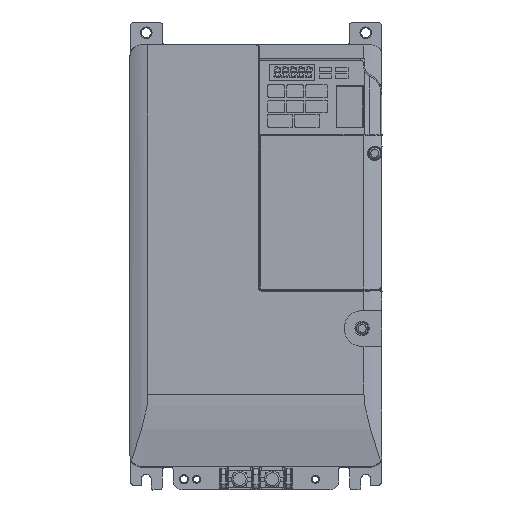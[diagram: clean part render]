
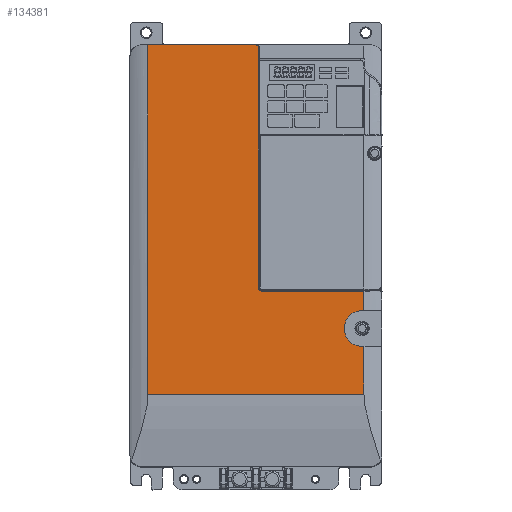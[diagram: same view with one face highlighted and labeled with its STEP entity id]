
A CAD part, top view. The second image highlights one B-rep face of the part: STEP entity #134381.
In plain terms, the highlighted planar face has unit normal (0, 0, 1).
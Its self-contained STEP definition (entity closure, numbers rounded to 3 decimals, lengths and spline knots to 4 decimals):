
#132847=CARTESIAN_POINT('',(0.0512,4.5669,
5.5118));
#132848=CARTESIAN_POINT('',(0.0512,4.5801,
5.5118));
#132849=CARTESIAN_POINT('',(0.0412,4.5964,
5.5118));
#132850=CARTESIAN_POINT('',(0.0249,4.6063,
5.5118));
#132851=CARTESIAN_POINT('',(0.0118,4.6063,
5.5118));
#132935=DIRECTION('',(-1.,0.,0.));
#132936=VECTOR('',#132935,2.374);
#132937=CARTESIAN_POINT('',(0.0118,4.6063,
5.5118));
#132938=LINE('',#132937,#132936);
#132944=DIRECTION('',(0.,-1.,0.));
#132945=VECTOR('',#132944,5.2835);
#132946=CARTESIAN_POINT('',(0.0512,4.5669,
5.5118));
#132947=LINE('',#132946,#132945);
#132948=DIRECTION('',(-1.,0.,0.));
#132949=VECTOR('',#132948,0.0394);
#132950=CARTESIAN_POINT('',(2.3622,-1.2008,
5.5118));
#132951=LINE('',#132950,#132949);
#132952=CARTESIAN_POINT('',(2.3228,-1.5945,
5.5118));
#132953=DIRECTION('',(0.,0.,1.));
#132954=DIRECTION('',(0.,1.,0.));
#132955=AXIS2_PLACEMENT_3D('',#132952,#132953,#132954);
#132957=CARTESIAN_POINT('',(2.3228,-1.5945,
5.5118));
#132958=DIRECTION('',(0.,0.,1.));
#132959=DIRECTION('',(-1.,0.,0.));
#132960=AXIS2_PLACEMENT_3D('',#132957,#132958,#132959);
#132962=DIRECTION('',(1.,0.,0.));
#132963=VECTOR('',#132962,0.0394);
#132964=CARTESIAN_POINT('',(2.3228,-1.9882,
5.5118));
#132965=LINE('',#132964,#132963);
#132966=CARTESIAN_POINT('',(0.1102,-0.7756,
5.5118));
#132967=CARTESIAN_POINT('',(0.1038,-0.7756,
5.5118));
#132968=CARTESIAN_POINT('',(0.0917,-0.7737,
5.5118));
#132969=CARTESIAN_POINT('',(0.0749,-0.7651,
5.5118));
#132970=CARTESIAN_POINT('',(0.0616,-0.7519,
5.5118));
#132971=CARTESIAN_POINT('',(0.0531,-0.735,
5.5118));
#132972=CARTESIAN_POINT('',(0.0512,-0.723,
5.5118));
#132973=CARTESIAN_POINT('',(0.0512,-0.7166,
5.5118));
#132984=DIRECTION('',(-1.,0.,0.));
#132985=VECTOR('',#132984,2.252);
#132986=CARTESIAN_POINT('',(2.3622,-0.7756,
5.5118));
#132987=LINE('',#132986,#132985);
#133073=DIRECTION('',(1.,0.,0.));
#133074=VECTOR('',#133073,4.7244);
#133075=CARTESIAN_POINT('',(-2.3622,-3.0315,
5.5118));
#133076=LINE('',#133075,#133074);
#133097=DIRECTION('',(0.,-1.,0.));
#133098=VECTOR('',#133097,7.6378);
#133099=CARTESIAN_POINT('',(-2.3622,4.6063,
5.5118));
#133100=LINE('',#133099,#133098);
#133113=DIRECTION('',(0.,1.,0.));
#133114=VECTOR('',#133113,1.0433);
#133115=CARTESIAN_POINT('',(2.3622,-3.0315,
5.5118));
#133116=LINE('',#133115,#133114);
#133155=DIRECTION('',(0.,1.,0.));
#133156=VECTOR('',#133155,0.4252);
#133157=CARTESIAN_POINT('',(2.3622,-1.2008,
5.5118));
#133158=LINE('',#133157,#133156);
#133832=CARTESIAN_POINT('',(0.0512,4.5669,
5.5118));
#133834=VERTEX_POINT('',#133832);
#133839=CARTESIAN_POINT('',(0.0512,-0.7166,
5.5118));
#133840=VERTEX_POINT('',#133839);
#133842=VERTEX_POINT('',#132851);
#133863=CARTESIAN_POINT('',(-2.3622,4.6063,
5.5118));
#133864=VERTEX_POINT('',#133863);
#133865=VERTEX_POINT('',#132966);
#133866=CARTESIAN_POINT('',(2.3622,-0.7756,
5.5118));
#133867=VERTEX_POINT('',#133866);
#133868=CARTESIAN_POINT('',(2.3622,-1.2008,
5.5118));
#133869=VERTEX_POINT('',#133868);
#133870=CARTESIAN_POINT('',(2.3228,-1.2008,
5.5118));
#133871=VERTEX_POINT('',#133870);
#133872=CARTESIAN_POINT('',(1.9291,-1.5945,
5.5118));
#133873=VERTEX_POINT('',#133872);
#133874=CARTESIAN_POINT('',(2.3228,-1.9882,
5.5118));
#133875=VERTEX_POINT('',#133874);
#133876=CARTESIAN_POINT('',(2.3622,-1.9882,
5.5118));
#133877=VERTEX_POINT('',#133876);
#133878=CARTESIAN_POINT('',(2.3622,-3.0315,
5.5118));
#133879=VERTEX_POINT('',#133878);
#133880=CARTESIAN_POINT('',(-2.3622,-3.0315,
5.5118));
#133881=VERTEX_POINT('',#133880);
#134351=CARTESIAN_POINT('',(0.,0.,5.5118));
#134352=DIRECTION('',(0.,0.,1.));
#134353=DIRECTION('',(1.,0.,0.));
#134354=AXIS2_PLACEMENT_3D('',#134351,#134352,#134353);
#134355=PLANE('',#134354);
#134356=ORIENTED_EDGE('',*,*,#134253,.F.);
#134357=ORIENTED_EDGE('',*,*,#134240,.T.);
#134359=ORIENTED_EDGE('',*,*,#134358,.F.);
#134361=ORIENTED_EDGE('',*,*,#134360,.F.);
#134363=ORIENTED_EDGE('',*,*,#134362,.F.);
#134365=ORIENTED_EDGE('',*,*,#134364,.T.);
#134367=ORIENTED_EDGE('',*,*,#134366,.T.);
#134369=ORIENTED_EDGE('',*,*,#134368,.T.);
#134371=ORIENTED_EDGE('',*,*,#134370,.T.);
#134373=ORIENTED_EDGE('',*,*,#134372,.F.);
#134375=ORIENTED_EDGE('',*,*,#134374,.F.);
#134377=ORIENTED_EDGE('',*,*,#134376,.F.);
#134378=ORIENTED_EDGE('',*,*,#134344,.F.);
#134379=EDGE_LOOP('',(#134356,#134357,#134359,#134361,#134363,#134365,#134367,
#134369,#134371,#134373,#134375,#134377,#134378));
#134380=FACE_OUTER_BOUND('',#134379,.F.);
#134381=ADVANCED_FACE('',(#134380),#134355,.T.);
#132852=B_SPLINE_CURVE_WITH_KNOTS('',3,(#132847,#132848,#132849,#132850,
#132851),.UNSPECIFIED.,.F.,.F.,(4,1,4),(0.,0.5,1.),.UNSPECIFIED.);
#132956=CIRCLE('',#132955,0.3937);
#132961=CIRCLE('',#132960,0.3937);
#132974=B_SPLINE_CURVE_WITH_KNOTS('',3,(#132966,#132967,#132968,#132969,#132970,
#132971,#132972,#132973),.UNSPECIFIED.,.F.,.F.,(4,1,1,1,1,4),(0.,0.2,0.4,
0.6,0.8,1.),.UNSPECIFIED.);
#134240=EDGE_CURVE('',#133834,#133840,#132947,.T.);
#134253=EDGE_CURVE('',#133834,#133842,#132852,.T.);
#134344=EDGE_CURVE('',#133842,#133864,#132938,.T.);
#134358=EDGE_CURVE('',#133865,#133840,#132974,.T.);
#134360=EDGE_CURVE('',#133867,#133865,#132987,.T.);
#134362=EDGE_CURVE('',#133869,#133867,#133158,.T.);
#134364=EDGE_CURVE('',#133869,#133871,#132951,.T.);
#134366=EDGE_CURVE('',#133871,#133873,#132956,.T.);
#134368=EDGE_CURVE('',#133873,#133875,#132961,.T.);
#134370=EDGE_CURVE('',#133875,#133877,#132965,.T.);
#134372=EDGE_CURVE('',#133879,#133877,#133116,.T.);
#134374=EDGE_CURVE('',#133881,#133879,#133076,.T.);
#134376=EDGE_CURVE('',#133864,#133881,#133100,.T.);
